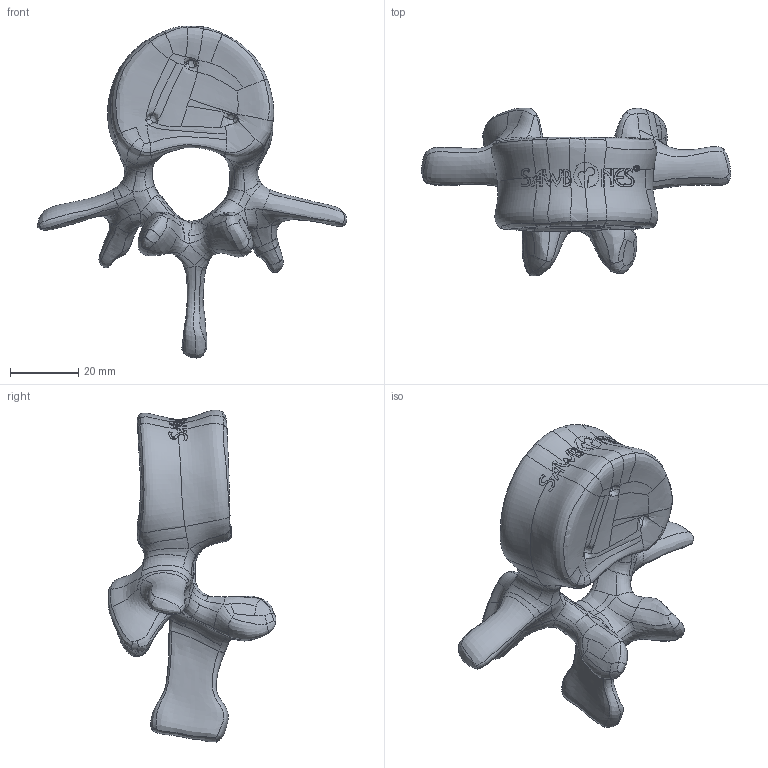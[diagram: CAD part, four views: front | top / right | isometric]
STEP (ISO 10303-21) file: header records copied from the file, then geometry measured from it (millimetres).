
FILE_DESCRIPTION (( 'STEP AP203' ), '1' );
FILE_NAME ('3429-1.STEP', '2025-06-12T14:03:32', ( '' ), ( '' ), 'SwSTEP 2.0', 'SolidWorks 2024', '' );
FILE_SCHEMA (( 'CONFIG_CONTROL_DESIGN' ));
Products named in the file (1): 3429-1
Bounding box: 90.37 x 49.07 x 97.02 mm (x, y, z)
Volume: 54853.6 mm3; surface area: 13934.1 mm2
Topology: 1 solids, 1 shells, 501 faces, 1291 edges, 792 vertices
Faces by surface type: bspline 499, plane 2
Entity records: 104573 total; most frequent: CARTESIAN_POINT 96519, ORIENTED_EDGE 2582, EDGE_CURVE 1291, B_SPLINE_CURVE_WITH_KNOTS 1291, VERTEX_POINT 792, EDGE_LOOP 503, FACE_OUTER_BOUND 501, ADVANCED_FACE 501
